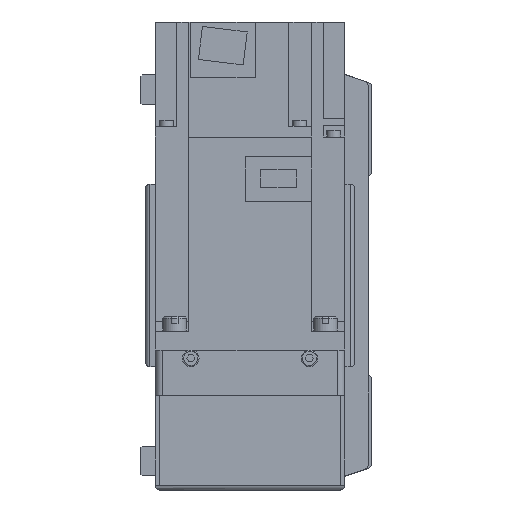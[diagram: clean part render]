
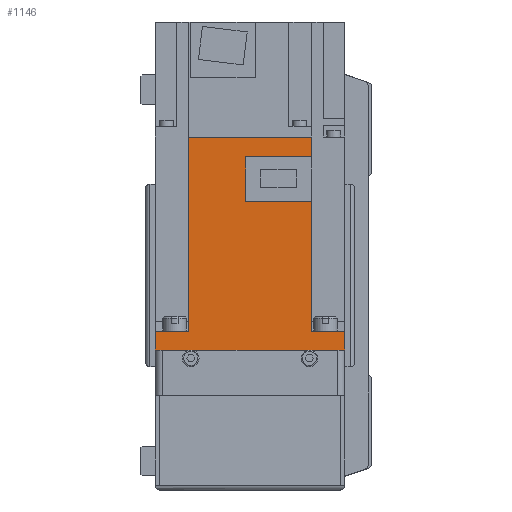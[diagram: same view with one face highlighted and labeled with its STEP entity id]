
A CAD part, left-side view. The second image highlights one B-rep face of the part: STEP entity #1146.
In plain terms, the highlighted planar face has unit normal (-1, 0, 0) as drawn and (1, 0, 0) by its records, which use the part's own axes.
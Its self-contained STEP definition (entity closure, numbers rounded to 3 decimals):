
#1146 = ADVANCED_FACE( '', ( #3123 ), #3124, .F. );
#3123 = FACE_OUTER_BOUND( '', #6183, .T. );
#3124 = PLANE( '', #6184 );
#6183 = EDGE_LOOP( '', ( #9383, #9384, #9385, #9386, #9387, #9388, #9389, #9390, #9391, #9392, #9393, #9394 ) );
#6184 = AXIS2_PLACEMENT_3D( '', #9395, #9396, #9397 );
#9383 = ORIENTED_EDGE( '', *, *, #17812, .F. );
#9384 = ORIENTED_EDGE( '', *, *, #17813, .F. );
#9385 = ORIENTED_EDGE( '', *, *, #17744, .F. );
#9386 = ORIENTED_EDGE( '', *, *, #17814, .T. );
#9387 = ORIENTED_EDGE( '', *, *, #17815, .F. );
#9388 = ORIENTED_EDGE( '', *, *, #17816, .T. );
#9389 = ORIENTED_EDGE( '', *, *, #17817, .T. );
#9390 = ORIENTED_EDGE( '', *, *, #17818, .F. );
#9391 = ORIENTED_EDGE( '', *, *, #17711, .F. );
#9392 = ORIENTED_EDGE( '', *, *, #17819, .F. );
#9393 = ORIENTED_EDGE( '', *, *, #17820, .F. );
#9394 = ORIENTED_EDGE( '', *, *, #17821, .F. );
#9395 = CARTESIAN_POINT( '', ( 40., 89.8, 40. ) );
#9396 = DIRECTION( '', ( -1., 0., 0. ) );
#9397 = DIRECTION( '', ( 0., 0., 1. ) );
#17711 = EDGE_CURVE( '', #21063, #21064, #21065, .T. );
#17744 = EDGE_CURVE( '', #21125, #21121, #21127, .T. );
#17812 = EDGE_CURVE( '', #21253, #21254, #21255, .T. );
#17813 = EDGE_CURVE( '', #21121, #21253, #21256, .T. );
#17814 = EDGE_CURVE( '', #21125, #21257, #21258, .T. );
#17815 = EDGE_CURVE( '', #21259, #21257, #21260, .T. );
#17816 = EDGE_CURVE( '', #21259, #21261, #21262, .T. );
#17817 = EDGE_CURVE( '', #21261, #21263, #21264, .T. );
#17818 = EDGE_CURVE( '', #21064, #21263, #21265, .T. );
#17819 = EDGE_CURVE( '', #21266, #21063, #21267, .T. );
#17820 = EDGE_CURVE( '', #21268, #21266, #21269, .T. );
#17821 = EDGE_CURVE( '', #21254, #21268, #21270, .T. );
#21063 = VERTEX_POINT( '', #26012 );
#21064 = VERTEX_POINT( '', #26013 );
#21065 = LINE( '', #26014, #26015 );
#21121 = VERTEX_POINT( '', #26098 );
#21125 = VERTEX_POINT( '', #26104 );
#21127 = LINE( '', #26107, #26108 );
#21253 = VERTEX_POINT( '', #26271 );
#21254 = VERTEX_POINT( '', #26272 );
#21255 = LINE( '', #26273, #26274 );
#21256 = LINE( '', #26275, #26276 );
#21257 = VERTEX_POINT( '', #26277 );
#21258 = LINE( '', #26278, #26279 );
#21259 = VERTEX_POINT( '', #26280 );
#21260 = LINE( '', #26281, #26282 );
#21261 = VERTEX_POINT( '', #26283 );
#21262 = LINE( '', #26284, #26285 );
#21263 = VERTEX_POINT( '', #26286 );
#21264 = LINE( '', #26287, #26288 );
#21265 = LINE( '', #26289, #26290 );
#21266 = VERTEX_POINT( '', #26291 );
#21267 = LINE( '', #26292, #26293 );
#21268 = VERTEX_POINT( '', #26294 );
#21269 = LINE( '', #26295, #26296 );
#21270 = LINE( '', #26297, #26298 );
#26012 = CARTESIAN_POINT( '', ( 40., 8., -25.95 ) );
#26013 = CARTESIAN_POINT( '', ( 40., 8., -40. ) );
#26014 = CARTESIAN_POINT( '', ( 40., 8., 40. ) );
#26015 = VECTOR( '', #32897, 1000. );
#26098 = CARTESIAN_POINT( '', ( 40., 89.8, -25.95 ) );
#26104 = CARTESIAN_POINT( '', ( 40., 89.8, 25.95 ) );
#26107 = CARTESIAN_POINT( '', ( 40., 89.8, 40. ) );
#26108 = VECTOR( '', #32953, 1000. );
#26271 = CARTESIAN_POINT( '', ( 40., 81.4, -25.95 ) );
#26272 = CARTESIAN_POINT( '', ( 40., 81.4, 1.8 ) );
#26273 = CARTESIAN_POINT( '', ( 40., 81.4, -26. ) );
#26274 = VECTOR( '', #33057, 1000. );
#26275 = CARTESIAN_POINT( '', ( 40., 158., -25.95 ) );
#26276 = VECTOR( '', #33058, 1000. );
#26277 = CARTESIAN_POINT( '', ( 40., 8., 25.95 ) );
#26278 = CARTESIAN_POINT( '', ( 40., 158., 25.95 ) );
#26279 = VECTOR( '', #33059, 1000. );
#26280 = CARTESIAN_POINT( '', ( 40., 8., 40. ) );
#26281 = CARTESIAN_POINT( '', ( 40., 8., 40. ) );
#26282 = VECTOR( '', #33060, 1000. );
#26283 = CARTESIAN_POINT( '', ( 40., 0., 40. ) );
#26284 = CARTESIAN_POINT( '', ( 40., 89.8, 40. ) );
#26285 = VECTOR( '', #33061, 1000. );
#26286 = CARTESIAN_POINT( '', ( 40., 0., -40. ) );
#26287 = CARTESIAN_POINT( '', ( 40., 0., 40. ) );
#26288 = VECTOR( '', #33062, 1000. );
#26289 = CARTESIAN_POINT( '', ( 40., 89.8, -40. ) );
#26290 = VECTOR( '', #33063, 1000. );
#26291 = CARTESIAN_POINT( '', ( 40., 62.8, -25.95 ) );
#26292 = CARTESIAN_POINT( '', ( 40., 158., -25.95 ) );
#26293 = VECTOR( '', #33064, 1000. );
#26294 = CARTESIAN_POINT( '', ( 40., 62.8, 1.8 ) );
#26295 = CARTESIAN_POINT( '', ( 40., 62.8, 1.8 ) );
#26296 = VECTOR( '', #33065, 1000. );
#26297 = CARTESIAN_POINT( '', ( 40., 81.4, 1.8 ) );
#26298 = VECTOR( '', #33066, 1000. );
#32897 = DIRECTION( '', ( 0., 0., -1. ) );
#32953 = DIRECTION( '', ( 0., 0., -1. ) );
#33057 = DIRECTION( '', ( 0., 0., 1. ) );
#33058 = DIRECTION( '', ( 0., -1., 0. ) );
#33059 = DIRECTION( '', ( 0., -1., 0. ) );
#33060 = DIRECTION( '', ( 0., 0., -1. ) );
#33061 = DIRECTION( '', ( 0., -1., 0. ) );
#33062 = DIRECTION( '', ( 0., 0., -1. ) );
#33063 = DIRECTION( '', ( 0., -1., 0. ) );
#33064 = DIRECTION( '', ( 0., -1., 0. ) );
#33065 = DIRECTION( '', ( 0., 0., -1. ) );
#33066 = DIRECTION( '', ( 0., -1., 0. ) );
